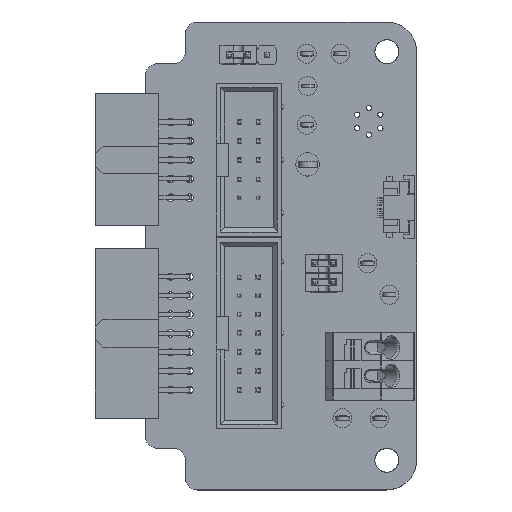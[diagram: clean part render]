
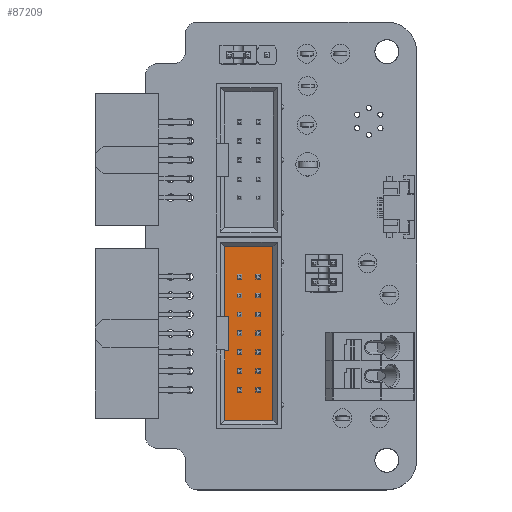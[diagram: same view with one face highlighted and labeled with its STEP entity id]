
A CAD part, top view. The second image highlights one B-rep face of the part: STEP entity #87209.
In plain terms, the highlighted planar face has unit normal (0, 0, 1).
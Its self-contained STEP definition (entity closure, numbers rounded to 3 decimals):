
#85015 = VERTEX_POINT('',#85016);
#85016 = CARTESIAN_POINT('',(9.87,-1.98,2.7));
#85022 = EDGE_CURVE('',#85015,#85023,#85025,.T.);
#85023 = VERTEX_POINT('',#85024);
#85024 = CARTESIAN_POINT('',(9.87,-1.43,2.7));
#85025 = LINE('',#85026,#85027);
#85026 = CARTESIAN_POINT('',(9.87,-1.98,2.7));
#85027 = VECTOR('',#85028,1.);
#85028 = DIRECTION('',(0.,1.,0.));
#85090 = VERTEX_POINT('',#85091);
#85091 = CARTESIAN_POINT('',(5.37,-1.43,2.7));
#85097 = EDGE_CURVE('',#85090,#85098,#85100,.T.);
#85098 = VERTEX_POINT('',#85099);
#85099 = CARTESIAN_POINT('',(5.37,-1.98,2.7));
#85100 = LINE('',#85101,#85102);
#85101 = CARTESIAN_POINT('',(5.37,-1.43,2.7));
#85102 = VECTOR('',#85103,1.);
#85103 = DIRECTION('',(0.,-1.,0.));
#85353 = VERTEX_POINT('',#85354);
#85354 = CARTESIAN_POINT('',(-4.07,3.07,2.7));
#85421 = VERTEX_POINT('',#85422);
#85422 = CARTESIAN_POINT('',(-4.07,-0.53,2.7));
#85533 = VERTEX_POINT('',#85534);
#85534 = CARTESIAN_POINT('',(19.31,3.07,2.7));
#85581 = VERTEX_POINT('',#85582);
#85582 = CARTESIAN_POINT('',(19.31,-0.53,2.7));
#87191 = VERTEX_POINT('',#87192);
#87192 = CARTESIAN_POINT('',(19.31,-1.98,2.7));
#87198 = EDGE_CURVE('',#85015,#87191,#87199,.T.);
#87199 = LINE('',#87200,#87201);
#87200 = CARTESIAN_POINT('',(9.87,-1.98,2.7));
#87201 = VECTOR('',#87202,1.);
#87202 = DIRECTION('',(1.,0.,0.));
#87209 = ADVANCED_FACE('',(#87210),#87275,.T.);
#87210 = FACE_BOUND('',#87211,.T.);
#87211 = EDGE_LOOP('',(#87212,#87218,#87226,#87232,#87233,#87239,#87240,
    #87241,#87247,#87253,#87261,#87269));
#87212 = ORIENTED_EDGE('',*,*,#87213,.F.);
#87213 = EDGE_CURVE('',#85421,#85353,#87214,.T.);
#87214 = LINE('',#87215,#87216);
#87215 = CARTESIAN_POINT('',(-4.07,-0.53,2.7));
#87216 = VECTOR('',#87217,1.);
#87217 = DIRECTION('',(0.,1.,0.));
#87218 = ORIENTED_EDGE('',*,*,#87219,.T.);
#87219 = EDGE_CURVE('',#85421,#87220,#87222,.T.);
#87220 = VERTEX_POINT('',#87221);
#87221 = CARTESIAN_POINT('',(-4.07,-1.98,2.7));
#87222 = LINE('',#87223,#87224);
#87223 = CARTESIAN_POINT('',(-4.07,-0.53,2.7));
#87224 = VECTOR('',#87225,1.);
#87225 = DIRECTION('',(0.,-1.,0.));
#87226 = ORIENTED_EDGE('',*,*,#87227,.T.);
#87227 = EDGE_CURVE('',#87220,#85098,#87228,.T.);
#87228 = LINE('',#87229,#87230);
#87229 = CARTESIAN_POINT('',(-4.07,-1.98,2.7));
#87230 = VECTOR('',#87231,1.);
#87231 = DIRECTION('',(1.,0.,0.));
#87232 = ORIENTED_EDGE('',*,*,#85097,.F.);
#87233 = ORIENTED_EDGE('',*,*,#87234,.F.);
#87234 = EDGE_CURVE('',#85023,#85090,#87235,.T.);
#87235 = LINE('',#87236,#87237);
#87236 = CARTESIAN_POINT('',(9.87,-1.43,2.7));
#87237 = VECTOR('',#87238,1.);
#87238 = DIRECTION('',(-1.,0.,0.));
#87239 = ORIENTED_EDGE('',*,*,#85022,.F.);
#87240 = ORIENTED_EDGE('',*,*,#87198,.T.);
#87241 = ORIENTED_EDGE('',*,*,#87242,.T.);
#87242 = EDGE_CURVE('',#87191,#85581,#87243,.T.);
#87243 = LINE('',#87244,#87245);
#87244 = CARTESIAN_POINT('',(19.31,-1.98,2.7));
#87245 = VECTOR('',#87246,1.);
#87246 = DIRECTION('',(0.,1.,0.));
#87247 = ORIENTED_EDGE('',*,*,#87248,.F.);
#87248 = EDGE_CURVE('',#85533,#85581,#87249,.T.);
#87249 = LINE('',#87250,#87251);
#87250 = CARTESIAN_POINT('',(19.31,3.07,2.7));
#87251 = VECTOR('',#87252,1.);
#87252 = DIRECTION('',(0.,-1.,0.));
#87253 = ORIENTED_EDGE('',*,*,#87254,.T.);
#87254 = EDGE_CURVE('',#85533,#87255,#87257,.T.);
#87255 = VERTEX_POINT('',#87256);
#87256 = CARTESIAN_POINT('',(19.31,4.52,2.7));
#87257 = LINE('',#87258,#87259);
#87258 = CARTESIAN_POINT('',(19.31,3.07,2.7));
#87259 = VECTOR('',#87260,1.);
#87260 = DIRECTION('',(0.,1.,0.));
#87261 = ORIENTED_EDGE('',*,*,#87262,.T.);
#87262 = EDGE_CURVE('',#87255,#87263,#87265,.T.);
#87263 = VERTEX_POINT('',#87264);
#87264 = CARTESIAN_POINT('',(-4.07,4.52,2.7));
#87265 = LINE('',#87266,#87267);
#87266 = CARTESIAN_POINT('',(19.31,4.52,2.7));
#87267 = VECTOR('',#87268,1.);
#87268 = DIRECTION('',(-1.,0.,0.));
#87269 = ORIENTED_EDGE('',*,*,#87270,.T.);
#87270 = EDGE_CURVE('',#87263,#85353,#87271,.T.);
#87271 = LINE('',#87272,#87273);
#87272 = CARTESIAN_POINT('',(-4.07,4.52,2.7));
#87273 = VECTOR('',#87274,1.);
#87274 = DIRECTION('',(0.,-1.,0.));
#87275 = PLANE('',#87276);
#87276 = AXIS2_PLACEMENT_3D('',#87277,#87278,#87279);
#87277 = CARTESIAN_POINT('',(0.,0.,2.7));
#87278 = DIRECTION('',(0.,0.,1.));
#87279 = DIRECTION('',(1.,0.,-0.));
